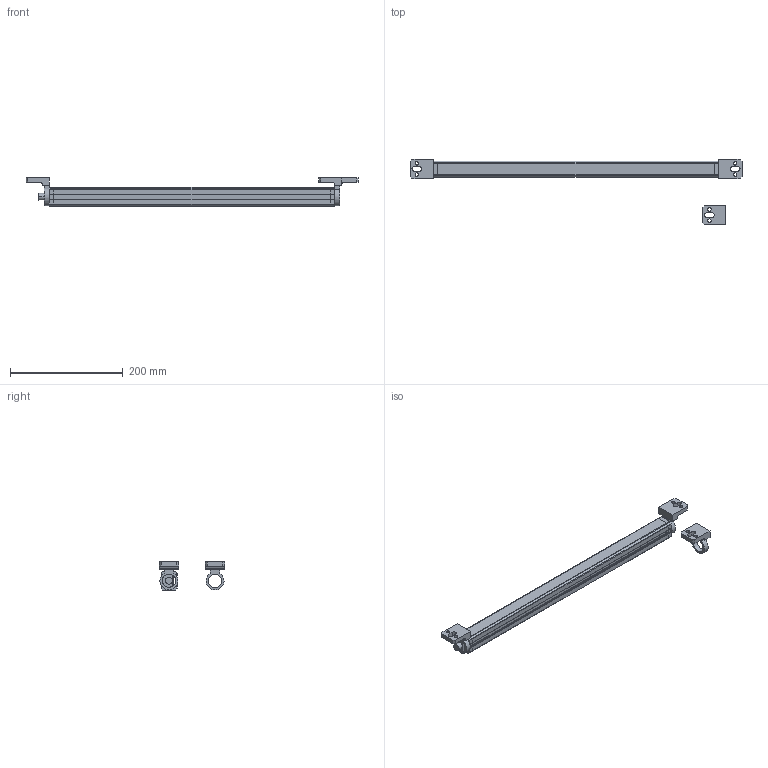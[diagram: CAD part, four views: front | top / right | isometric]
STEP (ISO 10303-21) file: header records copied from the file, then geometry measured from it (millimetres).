
FILE_DESCRIPTION((''),'2;1');
FILE_NAME('Solid_450.stp','2007-11-16T11:18:35',(''),(''),'Mechanical Desktop 2008','Mechanical Desktop 2008',', , ');
FILE_SCHEMA(('CONFIG_CONTROL_DESIGN'));
Length unit declared in the file: millimetre
Products named in the file (9): SOLID; PROFIL VOLL; KAPPE; ~KAPPE; FRONTSCHEIBE; HALTER; ~HALTER; ~~HALTER; RM_SDB
Assembly tree (9 placements, depth 2):
  SOLID
    PROFIL VOLL
    KAPPE
    ~KAPPE
    FRONTSCHEIBE
    HALTER
    ~HALTER
    ~~HALTER
    RM_SDB  x2
Bounding box: 589.97 x 115.8 x 51.28 mm (x, y, z)
Volume: 491902.9 mm3; surface area: 121880.6 mm2
Topology: 7 solids, 7 shells, 213 faces, 557 edges, 370 vertices
Faces by surface type: plane 130, cone 44, cylinder 39
Entity records: 6828 total; most frequent: DIRECTION 1165, CARTESIAN_POINT 1158, ORIENTED_EDGE 1114, EDGE_CURVE 557, AXIS2_PLACEMENT_3D 389, VECTOR 387, LINE 387, VERTEX_POINT 370
